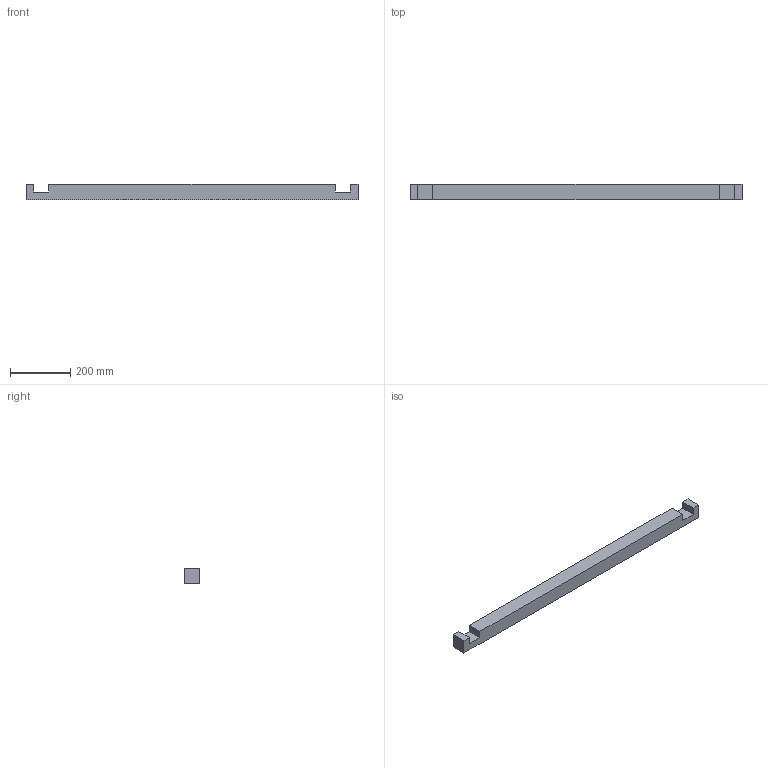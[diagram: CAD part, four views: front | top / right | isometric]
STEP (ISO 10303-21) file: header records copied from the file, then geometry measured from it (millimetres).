
FILE_DESCRIPTION(('Open CASCADE Model'),'2;1');
FILE_NAME('Open CASCADE Shape Model','2026-03-30T20:16:05',('Author'),( 'Open CASCADE'),'Open CASCADE STEP processor 7.8','Open CASCADE 7.8' ,'Unknown');
FILE_SCHEMA(('AUTOMOTIVE_DESIGN { 1 0 10303 214 1 1 1 1 }'));
Length unit declared in the file: millimetre
Products named in the file (1): Open CASCADE STEP translator 7.8 2
Bounding box: 1100 x 50 x 50 mm (x, y, z)
Volume: 2625000 mm3; surface area: 225000 mm2
Topology: 1 solids, 1 shells, 14 faces, 36 edges, 24 vertices
Faces by surface type: plane 14
Entity records: 898 total; most frequent: CARTESIAN_POINT 147, DIRECTION 138, LINE 108, VECTOR 108, ORIENTED_EDGE 72, PCURVE 72, DEFINITIONAL_REPRESENTATION 72, EDGE_CURVE 36
